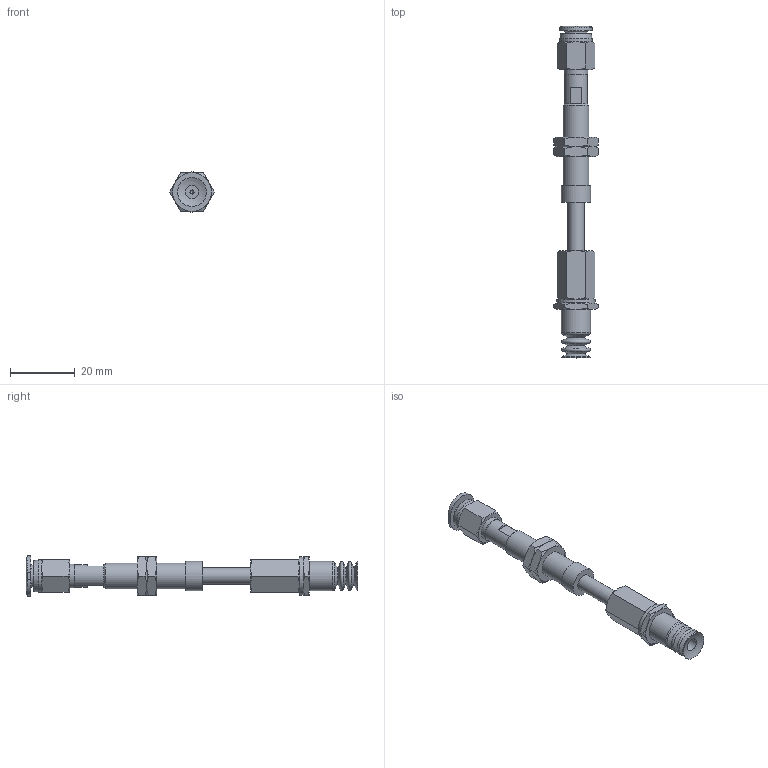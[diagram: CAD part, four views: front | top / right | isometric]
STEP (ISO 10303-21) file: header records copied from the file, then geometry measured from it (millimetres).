
FILE_DESCRIPTION(('STEP AP203'),'1');
FILE_NAME('-O.stp','2025-08-27T02:11:46',(' '),(' '),'Spatial InterOp 3D',' ',' ');
FILE_SCHEMA(('CONFIG_CONTROL_DESIGN'));
Length unit declared in the file: millimetre
Products named in the file (8): BNABPCTS-10-15-※-O; ADAPTER; NAPCTS-10-15-MBODY; Adapter_napc-10-T; Nut napc_s-10-15; NAPCTS-10-15-FBODY; BPCG-10-※; PC-C_06-M5
Assembly tree (8 placements, depth 2):
  BNABPCTS-10-15-※-O
    ADAPTER
    NAPCTS-10-15-MBODY
    Adapter_napc-10-T
    Nut napc_s-10-15  x2
    NAPCTS-10-15-FBODY
    BPCG-10-※
    PC-C_06-M5
Bounding box: 13.86 x 102.68 x 12.4 mm (x, y, z)
Volume: 4936.6 mm3; surface area: 6430.1 mm2
Topology: 7 solids, 10 shells, 193 faces, 389 edges, 228 vertices
Faces by surface type: cone 80, plane 66, cylinder 28, torus 10, bspline 4, revolution 3, sphere 2
Full cylindrical faces by diameter (mm): 1.25 x1, 4 x3, 4.134 x2, 5 x8, 7 x2, 7.188 x2, 7.4 x1, 8 x1, 8.2 x1, 9 x3, 10 x1, 12 x1
Entity records: 5080 total; most frequent: CARTESIAN_POINT 1543, DIRECTION 655, ORIENTED_EDGE 554, AXIS2_PLACEMENT_3D 304, EDGE_CURVE 279, EDGE_LOOP 250, VERTEX_POINT 196, FACE_OUTER_BOUND 147
